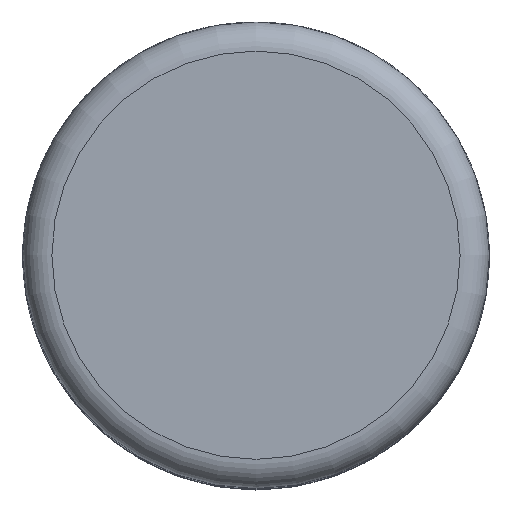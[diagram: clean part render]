
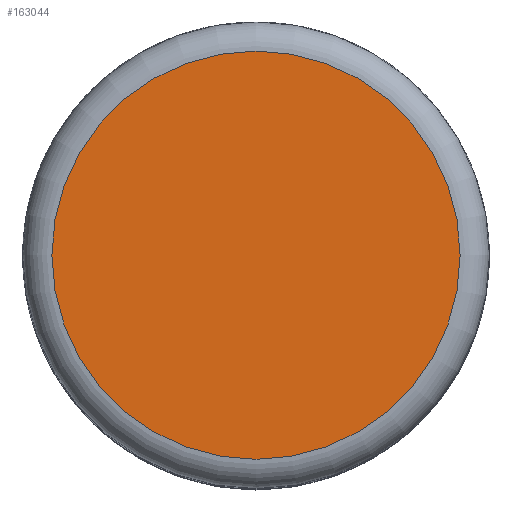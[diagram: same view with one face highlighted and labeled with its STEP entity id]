
A CAD part, top view. The second image highlights one B-rep face of the part: STEP entity #163044.
In plain terms, the highlighted planar face has unit normal (0, 0, 1).
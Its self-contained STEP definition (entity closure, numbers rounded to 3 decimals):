
#162879 = TOROIDAL_SURFACE('',#162880,7.,1.);
#162880 = AXIS2_PLACEMENT_3D('',#162881,#162882,#162883);
#162881 = CARTESIAN_POINT('',(0.,0.,29.));
#162882 = DIRECTION('',(0.,0.,1.));
#162883 = DIRECTION('',(1.,0.,-0.));
#162995 = VERTEX_POINT('',#162996);
#162996 = CARTESIAN_POINT('',(7.,0.,30.));
#163018 = EDGE_CURVE('',#162995,#162995,#163019,.T.);
#163019 = SURFACE_CURVE('',#163020,(#163025,#163032),.PCURVE_S1.);
#163020 = CIRCLE('',#163021,7.);
#163021 = AXIS2_PLACEMENT_3D('',#163022,#163023,#163024);
#163022 = CARTESIAN_POINT('',(0.,0.,30.));
#163023 = DIRECTION('',(0.,0.,1.));
#163024 = DIRECTION('',(1.,0.,-0.));
#163025 = PCURVE('',#162879,#163026);
#163026 = DEFINITIONAL_REPRESENTATION('',(#163027),#163031);
#163027 = LINE('',#163028,#163029);
#163028 = CARTESIAN_POINT('',(0.,1.571));
#163029 = VECTOR('',#163030,1.);
#163030 = DIRECTION('',(1.,0.));
#163031 = ( GEOMETRIC_REPRESENTATION_CONTEXT(2) 
PARAMETRIC_REPRESENTATION_CONTEXT() REPRESENTATION_CONTEXT('2D SPACE',''
  ) );
#163032 = PCURVE('',#163033,#163038);
#163033 = PLANE('',#163034);
#163034 = AXIS2_PLACEMENT_3D('',#163035,#163036,#163037);
#163035 = CARTESIAN_POINT('',(0.,0.,30.));
#163036 = DIRECTION('',(0.,0.,1.));
#163037 = DIRECTION('',(1.,0.,-0.));
#163038 = DEFINITIONAL_REPRESENTATION('',(#163039),#163043);
#163039 = CIRCLE('',#163040,7.);
#163040 = AXIS2_PLACEMENT_2D('',#163041,#163042);
#163041 = CARTESIAN_POINT('',(0.,0.));
#163042 = DIRECTION('',(1.,0.));
#163043 = ( GEOMETRIC_REPRESENTATION_CONTEXT(2) 
PARAMETRIC_REPRESENTATION_CONTEXT() REPRESENTATION_CONTEXT('2D SPACE',''
  ) );
#163044 = ADVANCED_FACE('',(#163045),#163033,.T.);
#163045 = FACE_BOUND('',#163046,.T.);
#163046 = EDGE_LOOP('',(#163047));
#163047 = ORIENTED_EDGE('',*,*,#163018,.T.);
